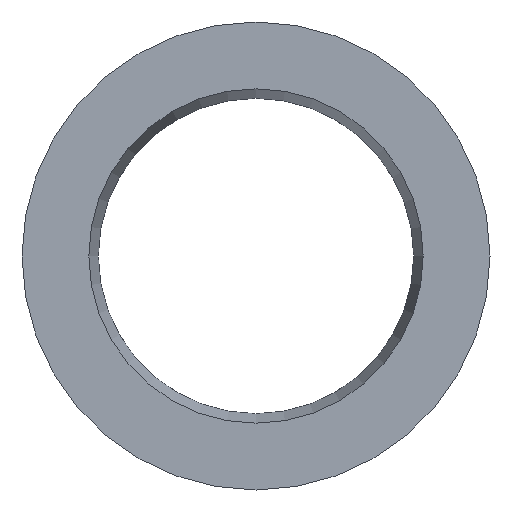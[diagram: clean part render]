
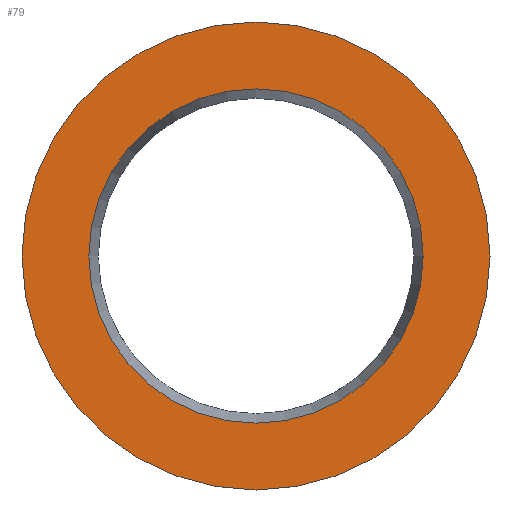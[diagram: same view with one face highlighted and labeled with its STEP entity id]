
A CAD part, front view. The second image highlights one B-rep face of the part: STEP entity #79.
In plain terms, the highlighted planar face has unit normal (0, -1, 0).
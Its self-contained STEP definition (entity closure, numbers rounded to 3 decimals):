
#79 = ADVANCED_FACE( '', ( #94, #95 ), #96, .T. );
#94 = FACE_OUTER_BOUND( '', #112, .T. );
#95 = FACE_BOUND( '', #113, .T. );
#96 = PLANE( '', #114 );
#112 = EDGE_LOOP( '', ( #138 ) );
#113 = EDGE_LOOP( '', ( #139 ) );
#114 = AXIS2_PLACEMENT_3D( '', #140, #141, #142 );
#138 = ORIENTED_EDGE( '', *, *, #153, .T. );
#139 = ORIENTED_EDGE( '', *, *, #152, .F. );
#140 = CARTESIAN_POINT( '', ( 6., 0., 0. ) );
#141 = DIRECTION( '', ( 0., -1., 0. ) );
#142 = DIRECTION( '', ( 0., 0., -1. ) );
#152 = EDGE_CURVE( '', #162, #162, #163, .T. );
#153 = EDGE_CURVE( '', #164, #164, #165, .T. );
#162 = VERTEX_POINT( '', #174 );
#163 = CIRCLE( '', #175, 6. );
#164 = VERTEX_POINT( '', #176 );
#165 = CIRCLE( '', #177, 8.4 );
#174 = CARTESIAN_POINT( '', ( 0., 0., -6. ) );
#175 = AXIS2_PLACEMENT_3D( '', #190, #191, #192 );
#176 = CARTESIAN_POINT( '', ( 0., 0., -8.4 ) );
#177 = AXIS2_PLACEMENT_3D( '', #193, #194, #195 );
#190 = CARTESIAN_POINT( '', ( 0., 0., 0. ) );
#191 = DIRECTION( '', ( 0., -1., 0. ) );
#192 = DIRECTION( '', ( 0., 0., -1. ) );
#193 = CARTESIAN_POINT( '', ( 0., 0., 0. ) );
#194 = DIRECTION( '', ( 0., -1., 0. ) );
#195 = DIRECTION( '', ( 0., 0., -1. ) );
